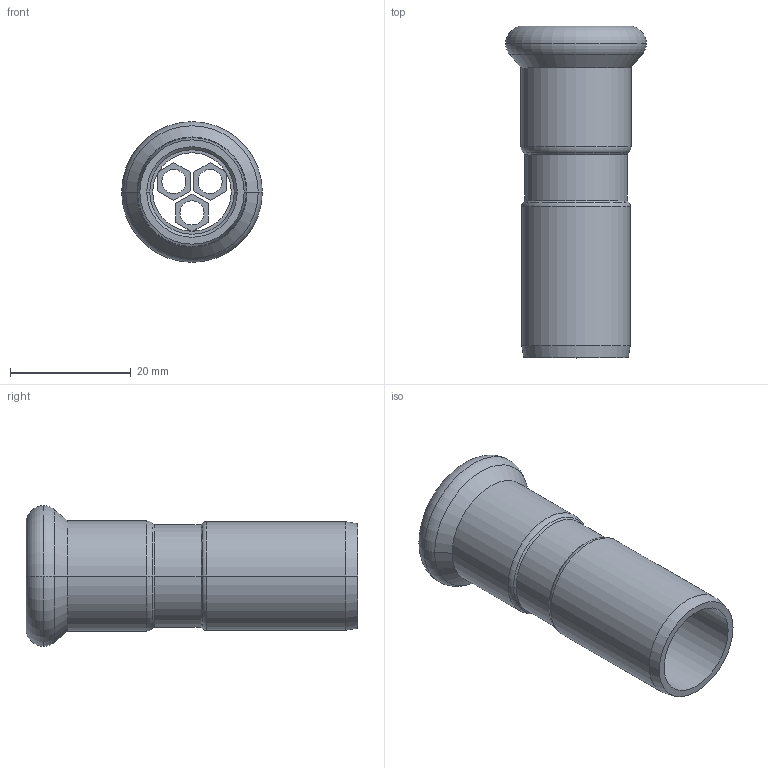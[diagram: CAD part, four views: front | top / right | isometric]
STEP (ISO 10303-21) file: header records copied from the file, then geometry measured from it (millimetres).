
FILE_DESCRIPTION(('OneSpaceDesigner STEP Export'),'2;1');
FILE_NAME('R2707 15x18.stp','2010-06-09T11:49:17',(''),(''),'OneSpace Designer STEP processor for AP214 (Solid Model)','OneSpace Modeling 15.00A 14-Mar-2007 (C) CoCreate Software GmbH','');
FILE_SCHEMA(('AUTOMOTIVE_DESIGN { 1 0 10303 214 1 1 1 1 }'));
Length unit declared in the file: millimetre
Products named in the file (2): R2707_15x18
Assembly tree (1 placements, depth 2):
  R2707_15x18
    R2707_15x18
Bounding box: 23.3 x 55 x 23.3 mm (x, y, z)
Volume: 5141.1 mm3; surface area: 6425.6 mm2
Topology: 1 solids, 1 shells, 75 faces, 177 edges, 110 vertices
Faces by surface type: plane 32, cylinder 25, cone 10, torus 8
Entity records: 1936 total; most frequent: ORIENTED_EDGE 354, CARTESIAN_POINT 308, DIRECTION 295, EDGE_CURVE 177, VERTEX_POINT 110, VECTOR 101, LINE 101, AXIS2_PLACEMENT_3D 97
